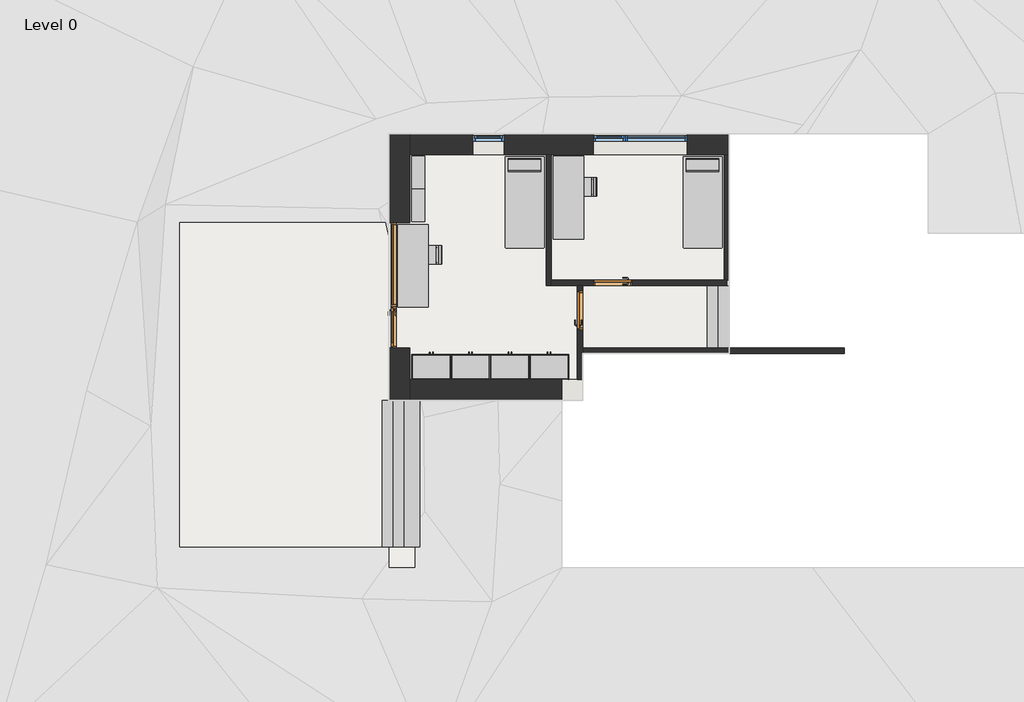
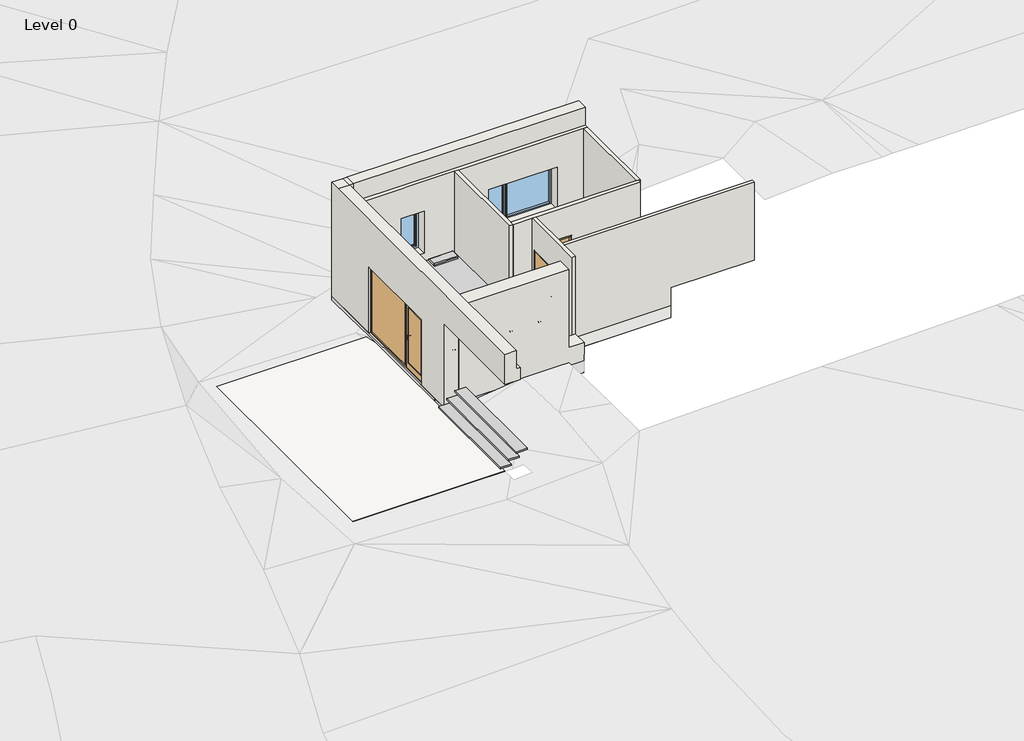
# One storey, part 1 of 2: 12 furniture elements, 11 walls, 4 slabs, 3 doors, 2 stair flights, 2 windows.
"""IFC4 building model written with IfcOpenShell, lengths in millimetres."""

from ifc_helpers import new_model, si_unit, frame, origin, place, context, project, spatial, polyline, outline, extrude, faceted_brep, transform, mapped, element, save
from components import ext_door_window_assembly_glass_2880x2200_mm_8e24472b, int_single_flush1_900x2200_mm_083ae047, int_single_flush1_900x2200_mm_924e3177, furniture_56f83323, furniture_1900_x_700mm_ac9d8d07, furniture_750_x_300_x_700mm_660817c4, bed_standard_2100_x_900mm_af0b1266, tall_cabinet_double_door_900_mm_12ca9f50, stair_flight_dba752a4, single_light_720x1400_mm_50d61ae6, window_assembly_individual_2160x1400_mm_9c06a6f2

model = new_model("IFC4")

# Units and contexts
model_context = context("Model", 3, world=origin())
ifc_project = project(units=[si_unit("LENGTHUNIT", "METRE", prefix="MILLI")], contexts=[model_context])

# Site, building, storey
site = spatial("IfcSite", under=ifc_project)
building = spatial("IfcBuilding", under=site)
storey = spatial("IfcBuildingStorey", under=building, Name="Level 0", Elevation=-600.0)

# Doors
placement = place(None, origin())
ext_door_window_assembly_glass_2880x2200_mm_shape = ext_door_window_assembly_glass_2880x2200_mm_8e24472b(model_context)
element("IfcDoor", 1, ObjectType="Ext. Door Window Assembly - Glass : 2880x2200 mm", at=placement, inside=storey, context=model_context, shape_type="MappedRepresentation", body=[
    mapped(ext_door_window_assembly_glass_2880x2200_mm_shape, transform((240.0, 6480.0, -600.0), x_axis=(0.0, -1.0, 0.0), y_axis=(1.0, 0.0, 0.0), z_axis=(0.0, 0.0, 1.0))),
])
int_single_flush1_900x2200_mm_shape = int_single_flush1_900x2200_mm_083ae047(model_context)
element("IfcDoor", 2, ObjectType="Int. Single-Flush1 : 900x2200 mm", at=placement, inside=storey, context=model_context, shape_type="MappedRepresentation", body=[
    mapped(int_single_flush1_900x2200_mm_shape, transform((4380.0, 5910.0, -600.0), x_axis=(0.0, 1.0, 0.0), y_axis=(-1.0, 0.0, 0.0), z_axis=(0.0, 0.0, 1.0))),
])
int_single_flush1_900x2200_mm_2_shape = int_single_flush1_900x2200_mm_924e3177(model_context)
element("IfcDoor", 3, ObjectType="Int. Single-Flush1 : 900x2200 mm", at=placement, inside=storey, context=model_context, shape_type="MappedRepresentation", body=[
    mapped(int_single_flush1_900x2200_mm_2_shape, transform((5130.0, 6540.0, -600.0), x_axis=(-1.0, 0.0, 0.0), y_axis=(0.0, -1.0, 0.0), z_axis=(0.0, 0.0, 1.0))),
])

# Furniture
furniture_shape = furniture_56f83323(model_context)
element("IfcFurniture", 4, ObjectType="Chair - Allround : Chair - allround", at=placement, inside=storey, context=model_context, shape_type="MappedRepresentation", body=[
    mapped(furniture_shape, transform((905.0, 7180.0, -600.0), x_axis=(0.0, -1.0000000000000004, 0.0), y_axis=(1.0000000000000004, 0.0, 0.0), z_axis=(0.0, 0.0, 1.0))),
])
element("IfcFurniture", 5, ObjectType="Chair - Allround : Chair - allround", at=placement, inside=storey, context=model_context, shape_type="MappedRepresentation", body=[
    mapped(furniture_shape, transform((4460.0, 8740.0, -600.0), x_axis=(0.0, -1.0000000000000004, 0.0), y_axis=(1.0000000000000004, 0.0, 0.0), z_axis=(0.0, 0.0, 1.0))),
])
furniture_1900_x_700mm_shape = furniture_1900_x_700mm_ac9d8d07(model_context)
element("IfcFurniture", 6, ObjectType="Table - Allround : 1900 x 700mm", at=placement, inside=storey, context=model_context, shape_type="MappedRepresentation", body=[
    mapped(furniture_1900_x_700mm_shape, transform((555.0, 6930.0, -600.0), x_axis=(0.0, 1.0, 0.0), y_axis=(-1.0, 0.0, 0.0), z_axis=(0.0, 0.0, 1.0))),
])
element("IfcFurniture", 7, ObjectType="Table - Allround : 1900 x 700mm", at=placement, inside=storey, context=model_context, shape_type="MappedRepresentation", body=[
    mapped(furniture_1900_x_700mm_shape, transform((4110.0, 8490.0, -600.0), x_axis=(0.0, 1.0, 0.0), y_axis=(-1.0, 0.0, 0.0), z_axis=(0.0, 0.0, 1.0))),
])
furniture_750_x_300_x_700mm_shape = furniture_750_x_300_x_700mm_660817c4(model_context)
element("IfcFurniture", 8, ObjectType="Shelving (Floor) - Allround : 750 x 300 x 700mm", at=placement, inside=storey, context=model_context, shape_type="MappedRepresentation", body=[
    mapped(furniture_750_x_300_x_700mm_shape, transform((365.2, 9065.0, -600.0), x_axis=(0.0, 1.0000000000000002, 0.0), y_axis=(-1.0000000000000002, 0.0, 0.0), z_axis=(0.0, 0.0, 1.0))),
])
element("IfcFurniture", 9, ObjectType="Shelving (Floor) - Allround : 750 x 300 x 700mm", at=placement, inside=storey, context=model_context, shape_type="MappedRepresentation", body=[
    mapped(furniture_750_x_300_x_700mm_shape, transform((365.2, 8315.0, -600.0), x_axis=(0.0, 1.0000000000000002, 0.0), y_axis=(-1.0000000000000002, 0.0, 0.0), z_axis=(0.0, 0.0, 1.0))),
])
bed_standard_2100_x_900mm_shape = bed_standard_2100_x_900mm_af0b1266(model_context)
element("IfcFurniture", 10, ObjectType="Bed - Standard : 2100 x 900mm", at=placement, inside=storey, context=model_context, shape_type="MappedRepresentation", body=[
    mapped(bed_standard_2100_x_900mm_shape, transform((2838.5114754, 8435.595082, -600.0), x_axis=(1.0, 0.0, 0.0), y_axis=(0.0, 1.0, 0.0), z_axis=(0.0, 0.0, 1.0))),
])
element("IfcFurniture", 11, ObjectType="Bed - Standard : 2100 x 900mm", at=placement, inside=storey, context=model_context, shape_type="MappedRepresentation", body=[
    mapped(bed_standard_2100_x_900mm_shape, transform((6918.5114754, 8435.595082, -600.0), x_axis=(1.0, 0.0, 0.0), y_axis=(0.0, 1.0, 0.0), z_axis=(0.0, 0.0, 1.0))),
])
tall_cabinet_double_door_900_mm_shape = tall_cabinet_double_door_900_mm_12ca9f50(model_context)
element("IfcFurniture", 12, ObjectType="Tall Cabinet - Double door : 900 mm", at=placement, inside=storey, context=model_context, shape_type="MappedRepresentation", body=[
    mapped(tall_cabinet_double_door_900_mm_shape, transform((1014.7003264, 4320.0, -600.0), x_axis=(-1.0000000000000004, 0.0, 0.0), y_axis=(0.0, -1.0000000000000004, 0.0), z_axis=(0.0, 0.0, 1.0))),
])
element("IfcFurniture", 13, ObjectType="Tall Cabinet - Double door : 900 mm", at=placement, inside=storey, context=model_context, shape_type="MappedRepresentation", body=[
    mapped(tall_cabinet_double_door_900_mm_shape, transform((1914.7003264, 4320.0, -600.0), x_axis=(-1.0000000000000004, 0.0, 0.0), y_axis=(0.0, -1.0000000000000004, 0.0), z_axis=(0.0, 0.0, 1.0))),
])
element("IfcFurniture", 14, ObjectType="Tall Cabinet - Double door : 900 mm", at=placement, inside=storey, context=model_context, shape_type="MappedRepresentation", body=[
    mapped(tall_cabinet_double_door_900_mm_shape, transform((2814.7003264, 4320.0, -600.0), x_axis=(-1.0000000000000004, 0.0, 0.0), y_axis=(0.0, -1.0000000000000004, 0.0), z_axis=(0.0, 0.0, 1.0))),
])
element("IfcFurniture", 15, ObjectType="Tall Cabinet - Double door : 900 mm", at=placement, inside=storey, context=model_context, shape_type="MappedRepresentation", body=[
    mapped(tall_cabinet_double_door_900_mm_shape, transform((3714.7003264, 4320.0, -600.0), x_axis=(-1.0000000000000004, 0.0, 0.0), y_axis=(0.0, -1.0000000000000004, 0.0), z_axis=(0.0, 0.0, 1.0))),
])

# Slabs
element("IfcSlab", 16, ObjectType="Generic - 400mm (Ground)", at=placement, inside=storey, context=model_context, shape_type="SweptSolid", body=[
    extrude(outline(polyline([(7800.0, 9480.0), (7800.0, 4920.0), (4440.0, 4920.0), (4440.0, 4320.0), (480.0, 4320.0), (480.0, 5040.0), (165.0, 5040.0), (165.0, 7920.0), (480.0, 7920.0), (480.0, 9480.0), (7800.0, 9480.0)])), frame((0.0, 0.0, -1000.0), z_axis=(0.0, 0.0, 1.0), x_axis=(1.0, 0.0, 0.0)), (0.0, 0.0, 1.0), 400.0),
])
element("IfcSlab", 17, ObjectType="Generic - Concrete 100mm (Exterior)", at=placement, inside=storey, context=model_context, shape_type="SweptSolid", body=[
    extrude(outline(polyline([(-4800.0, 7920.0), (0.0, 7920.0), (0.0, 480.0), (-4800.0, 480.0), (-4800.0, 7920.0)])), frame((0.0, 0.0, -800.0), z_axis=(0.0, 0.0, 1.0), x_axis=(1.0, 0.0, 0.0)), (0.0, 0.0, 1.0), 100.0),
])
element("IfcSlab", 18, ObjectType="Generic Pad - 2mm", at=placement, inside=storey, context=model_context, shape_type="SweptSolid", body=[
    extrude(outline(polyline([(7800.0, 9960.0), (7800.0, 4920.0), (4440.0, 4920.0), (4440.0, 3840.0), (0.0, 3840.0), (0.0, 9960.0), (7800.0, 9960.0)])), frame((0.0, 0.0, -1000.0), z_axis=(0.0, 0.0, 1.0), x_axis=(1.0, 0.0, 0.0)), (0.0, 0.0, 1.0), 2.0),
])
element("IfcSlab", 19, ObjectType="Generic Pad - 2mm", at=placement, inside=storey, context=model_context, shape_type="SweptSolid", body=[
    extrude(outline(polyline([(600.0, 0.0), (0.0, 0.0), (0.0, 480.0), (600.0, 480.0), (600.0, 0.0)])), frame((0.0, 0.0, -1902.0), z_axis=(0.0, 0.0, 1.0), x_axis=(1.0, 0.0, 0.0)), (0.0, 0.0, 1.0), 2.0),
])

# Stair flights
stair_flight_shape = stair_flight_dba752a4(model_context)
element("IfcStairFlight", 20, ObjectType="50 mm Tread 30 mm Nosing 15 mm Riser", at=placement, inside=storey, context=model_context, shape_type="MappedRepresentation", body=[
    mapped(stair_flight_shape, transform((0.0, 0.0, 0.0), x_axis=(1.0, 0.0, 0.0), y_axis=(0.0, 1.0, 0.0), z_axis=(0.0, 0.0, 1.0))),
])
element("IfcStairFlight", 21, ObjectType="30 mm Nosing", at=placement, inside=storey, context=model_context, shape_type="Brep", body=[
    faceted_brep([(7300.0, 5040.0, -400.0), (7300.0, 6480.0, -400.0), (7330.0, 6480.0, -600.0), (7330.0, 5040.0, -600.0), (7580.0, 5040.0, -400.0), (7580.0, 6480.0, -400.0), (7580.0, 6480.0, -592.0937271), (7570.1171589, 6480.0, -600.0), (7570.1171589, 5040.0, -600.0), (7580.0, 5040.0, -592.0937271), (7550.0, 6480.0, -200.0), (7550.0, 5040.0, -200.0), (7800.0, 5040.0, -200.0), (7800.0, 6480.0, -200.0), (7800.0, 6480.0, -416.0937271), (7800.0, 5040.0, -416.0937271)], [[[0, 1, 2, 3]], [[1, 0, 4, 5]], [[1, 5, 6, 7, 2]], [[4, 0, 3, 8, 9]], [[10, 11, 12, 13]], [[10, 13, 14, 6, 5]], [[12, 11, 4, 9, 15]], [[13, 12, 15, 14]], [[5, 4, 11, 10]], [[3, 2, 7, 8]], [[8, 7, 6, 14, 15, 9]]]),
])

# Walls
element("IfcWall", 22, ObjectType="Generic - 120mm (Interior)", at=placement, inside=storey, context=model_context, shape_type="Brep", body=[
    faceted_brep([(3600.0, 9480.0, -600.0), (3600.0, 6480.0, -600.0), (3600.0, 6480.0, 2600.0), (3600.0, 9480.0, 2600.0), (3720.0, 9480.0, -600.0), (3720.0, 9480.0, 2600.0), (3720.0, 6600.0, 2600.0), (3720.0, 6480.0, 2600.0), (3720.0, 6480.0, -600.0), (3720.0, 6600.0, -600.0)], [[[0, 1, 2, 3]], [[4, 5, 6, 7, 8, 9]], [[1, 0, 4, 9, 8]], [[2, 1, 8, 7]], [[0, 3, 5, 4]], [[3, 2, 7, 6, 5]]]),
])
element("IfcWall", 23, ObjectType="Generic - 120mm (Interior)", at=placement, inside=storey, context=model_context, shape_type="Brep", body=[
    faceted_brep([(3720.0, 6480.0, 2600.0), (3720.0, 6480.0, -600.0), (4320.0, 6480.0, -600.0), (4440.0, 6480.0, -600.0), (4680.0, 6480.0, -600.0), (4680.0, 6480.0, 1600.0), (5580.0, 6480.0, 1600.0), (5580.0, 6480.0, -600.0), (7800.0, 6480.0, -600.0), (7800.0, 6480.0, 0.0), (7740.0, 6480.0, 0.0), (7740.0, 6480.0, 2600.0), (4440.0, 6480.0, 2600.0), (4320.0, 6480.0, 2600.0), (3720.0, 6600.0, -600.0), (3720.0, 6600.0, 2600.0), (7680.0, 6600.0, 2600.0), (7740.0, 6600.0, 2600.0), (7740.0, 6600.0, 0.0), (7800.0, 6600.0, 0.0), (7800.0, 6600.0, -600.0), (7680.0, 6600.0, -600.0), (5580.0, 6600.0, -600.0), (5580.0, 6600.0, 1600.0), (4680.0, 6600.0, 1600.0), (4680.0, 6600.0, -600.0)], [[[0, 1, 2, 3, 4, 5, 6, 7, 8, 9, 10, 11, 12, 13]], [[14, 15, 16, 17, 18, 19, 20, 21, 22, 23, 24, 25]], [[1, 14, 25, 4, 3, 2]], [[20, 8, 7, 22, 21]], [[1, 0, 15, 14]], [[24, 5, 4, 25]], [[5, 24, 23, 6]], [[6, 23, 22, 7]], [[0, 13, 12, 11, 17, 16, 15]], [[17, 11, 10, 18]], [[18, 10, 9, 19]], [[9, 8, 20, 19]]]),
])
element("IfcWall", 24, ObjectType="Generic - 120mm (Interior)", at=placement, inside=storey, context=model_context, shape_type="Brep", body=[
    faceted_brep([(4440.0, 6480.0, -600.0), (4440.0, 6480.0, 2600.0), (4440.0, 5040.0, 2600.0), (4440.0, 4920.0, 2600.0), (4440.0, 4320.0, 2600.0), (4440.0, 4320.0, 0.0), (4440.0, 4320.0, -600.0), (4440.0, 4920.0, -600.0), (4440.0, 5040.0, -600.0), (4440.0, 5460.0, -600.0), (4440.0, 5460.0, 1600.0), (4440.0, 6360.0, 1600.0), (4440.0, 6360.0, -600.0), (4320.0, 6480.0, 2600.0), (4320.0, 6480.0, -600.0), (4320.0, 6360.0, -600.0), (4320.0, 6360.0, 1600.0), (4320.0, 5460.0, 1600.0), (4320.0, 5460.0, -600.0), (4320.0, 4320.0, -600.0), (4320.0, 4320.0, 2600.0)], [[[0, 1, 2, 3, 4, 5, 6, 7, 8, 9, 10, 11, 12]], [[13, 14, 15, 16, 17, 18, 19, 20]], [[14, 0, 12, 15]], [[6, 19, 18, 9, 8, 7]], [[1, 0, 14, 13]], [[6, 5, 4, 20, 19]], [[11, 16, 15, 12]], [[16, 11, 10, 17]], [[17, 10, 9, 18]], [[4, 3, 2, 1, 13, 20]]]),
])
element("IfcWall", 25, ObjectType="Generic - 120mm (Interior)", at=placement, inside=storey, context=model_context, shape_type="Brep", body=[
    faceted_brep([(7800.0, 6600.0, 2600.0), (7800.0, 6600.0, 0.0), (7800.0, 6600.0, -600.0), (7800.0, 9480.0, -600.0), (7800.0, 9480.0, 2600.0), (7800.0, 8640.0, 2600.0), (7800.0, 8520.0, 2600.0), (7680.0, 6600.0, -600.0), (7680.0, 6600.0, 2600.0), (7680.0, 9480.0, 2600.0), (7680.0, 9480.0, -600.0), (7740.0, 6600.0, 2600.0)], [[[0, 1, 2, 3, 4, 5, 6]], [[7, 8, 9, 10]], [[3, 2, 7, 10]], [[4, 3, 10, 9]], [[0, 6, 5, 4, 9, 8, 11]], [[0, 11, 8, 7, 2, 1]]]),
])
element("IfcWall", 26, ObjectType="Generic - 120mm (Interior)", at=placement, inside=storey, context=model_context, shape_type="SweptSolid", body=[
    extrude(outline(polyline([(-600.0, 4440.0), (-600.0, 7800.0), (0.0, 7800.0), (0.0, 10440.0), (2600.0, 10440.0), (2600.0, 4440.0), (-600.0, 4440.0)])), frame((0.0, 4920.0, 0.0), z_axis=(0.0, 1.0, 0.0), x_axis=(0.0, 0.0, 1.0)), (0.0, 0.0, 1.0), 120.0),
])
element("IfcWall", 27, ObjectType="Generic - 480mm (Exterior)", at=placement, inside=storey, context=model_context, shape_type="Brep", body=[
    faceted_brep([(480.0, 9960.0, -600.0), (480.0, 9960.0, 3200.0), (480.0, 9600.0, 3200.0), (480.0, 9600.0, 2600.0), (480.0, 9480.0, 2600.0), (480.0, 4320.0, 2600.0), (480.0, 3840.0, 2600.0), (480.0, 480.0, 2600.0), (480.0, 480.0, 2200.0), (480.0, 3840.0, 2200.0), (480.0, 3840.0, -600.0), (480.0, 4320.0, -600.0), (480.0, 5040.0, -600.0), (480.0, 5040.0, 1600.0), (480.0, 7920.0, 1600.0), (480.0, 7920.0, -600.0), (480.0, 9480.0, -600.0), (0.0, 9960.0, 3200.0), (0.0, 9960.0, -600.0), (0.0, 7920.0, -600.0), (0.0, 7920.0, 1600.0), (0.0, 5040.0, 1600.0), (0.0, 5040.0, -600.0), (0.0, 3840.0, -600.0), (0.0, 3840.0, 2200.0), (0.0, 480.0, 2200.0), (0.0, 480.0, 3200.0), (0.0, 9600.0, 3200.0), (360.0, 9960.0, 3200.0), (360.0, 480.0, 2600.0), (360.0, 480.0, 3200.0), (360.0, 9600.0, 3200.0), (360.0, 9600.0, 2600.0)], [[[0, 1, 2, 3, 4, 5, 6, 7, 8, 9, 10, 11, 12, 13, 14, 15, 16]], [[17, 18, 19, 20, 21, 22, 23, 24, 25, 26, 27]], [[1, 0, 18, 17, 28]], [[21, 13, 12, 22]], [[13, 21, 20, 14]], [[14, 20, 19, 15]], [[18, 0, 16, 15, 19]], [[10, 23, 22, 12, 11]], [[9, 8, 25, 24]], [[10, 9, 24, 23]], [[8, 7, 29, 30, 26, 25]], [[3, 2, 31, 32]], [[27, 26, 30, 31]], [[31, 30, 29, 32]], [[2, 1, 28, 31]], [[17, 27, 31, 28]], [[3, 32, 29, 7, 6, 5, 4]]]),
])
element("IfcWall", 28, ObjectType="Generic - 480mm (Exterior)", at=placement, inside=storey, context=model_context, shape_type="Brep", body=[
    faceted_brep([(480.0, 9480.0, -600.0), (3600.0, 9480.0, -600.0), (3720.0, 9480.0, -600.0), (7800.0, 9480.0, -600.0), (7800.0, 9480.0, 0.0), (7800.0, 9480.0, 2600.0), (3720.0, 9480.0, 2600.0), (3600.0, 9480.0, 2600.0), (480.0, 9480.0, 2600.0), (6840.0, 9480.0, 1600.0), (6840.0, 9480.0, 200.0), (4680.0, 9480.0, 200.0), (4680.0, 9480.0, 1600.0), (1920.0, 9480.0, 200.0), (1920.0, 9480.0, 1600.0), (2640.0, 9480.0, 1600.0), (2640.0, 9480.0, 200.0), (7800.0, 9960.0, -600.0), (480.0, 9960.0, -600.0), (480.0, 9960.0, 3200.0), (7800.0, 9960.0, 3200.0), (7800.0, 9960.0, 0.0), (6840.0, 9960.0, 200.0), (6840.0, 9960.0, 1600.0), (4680.0, 9960.0, 1600.0), (4680.0, 9960.0, 200.0), (1920.0, 9960.0, 1600.0), (1920.0, 9960.0, 200.0), (2640.0, 9960.0, 200.0), (2640.0, 9960.0, 1600.0), (480.0, 9600.0, 2600.0), (480.0, 9600.0, 3200.0), (7800.0, 9600.0, 3200.0), (7800.0, 9600.0, 2600.0)], [[[0, 1, 2, 3, 4, 5, 6, 7, 8], [9, 10, 11, 12], [13, 14, 15, 16]], [[17, 18, 19, 20, 21], [22, 23, 24, 25], [26, 27, 28, 29]], [[3, 2, 1, 0, 18, 17]], [[0, 8, 30, 31, 19, 18]], [[22, 10, 9, 23]], [[24, 12, 11, 25]], [[10, 22, 25, 11]], [[13, 27, 26, 14]], [[28, 16, 15, 29]], [[27, 13, 16, 28]], [[12, 24, 23, 9]], [[29, 15, 14, 26]], [[20, 19, 31, 32]], [[32, 31, 30, 33]], [[30, 8, 7, 6, 5, 33]], [[3, 17, 21, 20, 32, 33, 5, 4]]]),
])
element("IfcWall", 29, ObjectType="Generic - 480mm (Exterior)", at=placement, inside=storey, context=model_context, shape_type="Brep", body=[
    faceted_brep([(4440.0, 4320.0, -600.0), (4320.0, 4320.0, -600.0), (480.0, 4320.0, -600.0), (480.0, 4320.0, 2600.0), (3960.0, 4320.0, 2600.0), (3960.0, 4320.0, 0.0), (4440.0, 4320.0, 0.0), (4440.0, 3840.0, -600.0), (4440.0, 3840.0, 0.0), (3960.0, 3840.0, 0.0), (3960.0, 3840.0, 2200.0), (3960.0, 3840.0, 2600.0), (480.0, 3840.0, 2600.0), (480.0, 3840.0, 2200.0), (480.0, 3840.0, -600.0)], [[[0, 1, 2, 3, 4, 5, 6]], [[7, 8, 9, 10, 11, 12, 13, 14]], [[2, 1, 0, 7, 14]], [[2, 14, 13, 12, 3]], [[4, 3, 12, 11]], [[0, 6, 8, 7]], [[5, 4, 11, 10, 9]], [[5, 9, 8, 6]]]),
])
element("IfcWall", 30, ObjectType="Generic - 480mm (Foundation)", at=placement, inside=storey, context=model_context, shape_type="Brep", body=[
    faceted_brep([(3960.0, 4320.0, -1900.0), (480.0, 4320.0, -1900.0), (0.0, 4320.0, -1900.0), (0.0, 4320.0, -600.0), (480.0, 4320.0, -600.0), (3960.0, 4320.0, -600.0), (3960.0, 4320.0, -1300.0), (3960.0, 3840.0, -1900.0), (3960.0, 3840.0, -600.0), (0.0, 3840.0, -600.0), (0.0, 3840.0, -1900.0)], [[[0, 1, 2, 3, 4, 5, 6]], [[7, 8, 9, 10]], [[2, 1, 0, 7, 10]], [[5, 4, 3, 9, 8]], [[0, 6, 5, 8, 7]], [[3, 2, 10, 9]]]),
])
element("IfcWall", 31, ObjectType="Generic - 480mm (Foundation)", at=placement, inside=storey, context=model_context, shape_type="Brep", body=[
    faceted_brep([(480.0, 4320.0, -1900.0), (480.0, 9480.0, -1900.0), (480.0, 9960.0, -1900.0), (480.0, 9960.0, -600.0), (480.0, 9480.0, -600.0), (480.0, 7920.0, -600.0), (480.0, 7920.0, -1000.0), (480.0, 5040.0, -1000.0), (480.0, 5040.0, -600.0), (480.0, 4320.0, -600.0), (480.0, 4320.0, -1000.0), (0.0, 9960.0, -1900.0), (0.0, 4320.0, -1900.0), (0.0, 4320.0, -600.0), (0.0, 9960.0, -600.0), (165.0, 5040.0, -600.0), (165.0, 7920.0, -600.0), (165.0, 5040.0, -1000.0), (165.0, 7920.0, -1000.0)], [[[0, 1, 2, 3, 4, 5, 6, 7, 8, 9, 10]], [[11, 12, 13, 14]], [[2, 1, 0, 12, 11]], [[14, 13, 9, 8, 15, 16, 5, 4, 3]], [[9, 13, 12, 0, 10]], [[3, 2, 11, 14]], [[17, 7, 6, 18]], [[7, 17, 15, 8]], [[17, 18, 16, 15]], [[18, 6, 5, 16]]]),
])
element("IfcWall", 32, ObjectType="Generic - 480mm (Foundation)", at=placement, inside=storey, context=model_context, shape_type="Brep", body=[
    faceted_brep([(480.0, 9480.0, -1900.0), (7800.0, 9480.0, -1900.0), (7800.0, 9480.0, -1300.0), (7800.0, 9480.0, -600.0), (480.0, 9480.0, -600.0), (480.0, 9960.0, -1900.0), (480.0, 9960.0, -600.0), (7800.0, 9960.0, -600.0), (7800.0, 9960.0, -1300.0), (7800.0, 9960.0, -1900.0)], [[[0, 1, 2, 3, 4]], [[5, 6, 7, 8, 9]], [[1, 0, 5, 9]], [[3, 2, 1, 9, 8, 7]], [[4, 3, 7, 6]], [[0, 4, 6, 5]]]),
])

# Windows
single_light_720x1400_mm_shape = single_light_720x1400_mm_50d61ae6(model_context)
element("IfcWindow", 33, ObjectType="Single-Light : 720x1400 mm", at=placement, inside=storey, context=model_context, shape_type="MappedRepresentation", body=[
    mapped(single_light_720x1400_mm_shape, transform((2280.0, 9720.0, -600.0), x_axis=(1.0, 0.0, 0.0), y_axis=(0.0, 1.0, 0.0), z_axis=(0.0, 0.0, 1.0))),
])
window_assembly_individual_2160x1400_mm_shape = window_assembly_individual_2160x1400_mm_9c06a6f2(model_context)
element("IfcWindow", 34, ObjectType="Window Assembly Individual : 2160x1400 mm", at=placement, inside=storey, context=model_context, shape_type="MappedRepresentation", body=[
    mapped(window_assembly_individual_2160x1400_mm_shape, transform((5760.0, 9720.0, -600.0), x_axis=(-1.0, 0.0, 0.0), y_axis=(0.0, -1.0, 0.0), z_axis=(0.0, 0.0, 1.0))),
])

save(model, "model.ifc")
